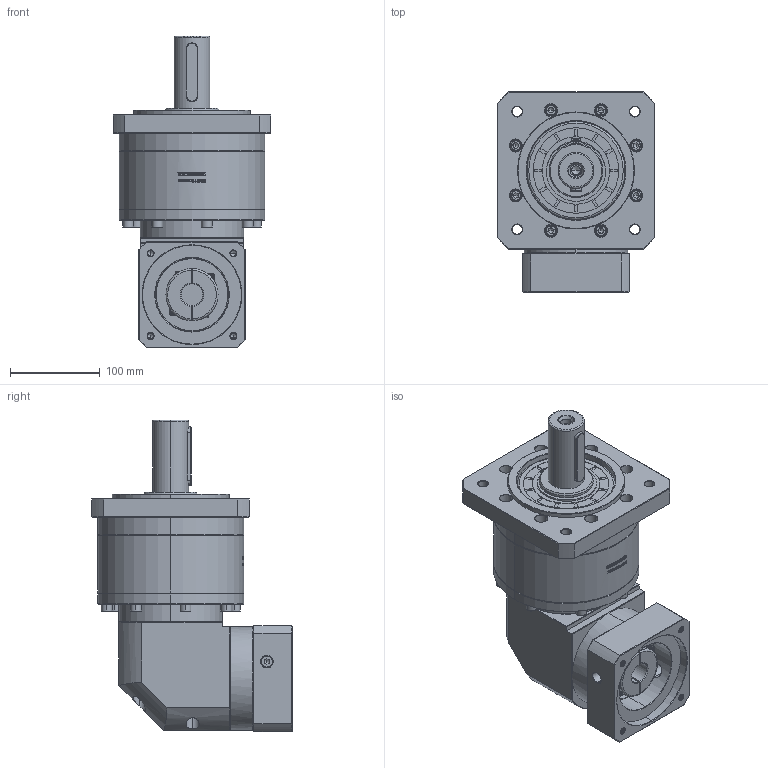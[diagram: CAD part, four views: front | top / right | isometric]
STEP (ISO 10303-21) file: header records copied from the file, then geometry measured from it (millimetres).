
FILE_DESCRIPTION (( 'STEP AP214' ), '1' );
FILE_NAME ('ZFR160A-D40-L2-24-110-130-M8.step', '2023-03-25T01:55:24', ( '' ), ( '' ), 'SwSTEP 2.0', 'SolidWorks 2016', '' );
FILE_SCHEMA (( 'AUTOMOTIVE_DESIGN' ));
Length unit declared in the file: millimetre
Products named in the file (1): ZFR160A-D40-L2-24-110-130-M8
Bounding box: 175 x 222.4 x 346.2 mm (x, y, z)
Volume: 5000282.9 mm3; surface area: 344531 mm2
Topology: 6 solids, 6 shells, 2783 faces, 7284 edges, 4674 vertices
Faces by surface type: plane 1373, bspline 497, cylinder 496, cone 371, torus 46
Entity records: 150331 total; most frequent: CARTESIAN_POINT 55571, ORIENTED_EDGE 14460, DIRECTION 11433, EDGE_CURVE 7230, VERTEX_POINT 4674, VECTOR 4503, LINE 4503, AXIS2_PLACEMENT_3D 3465
